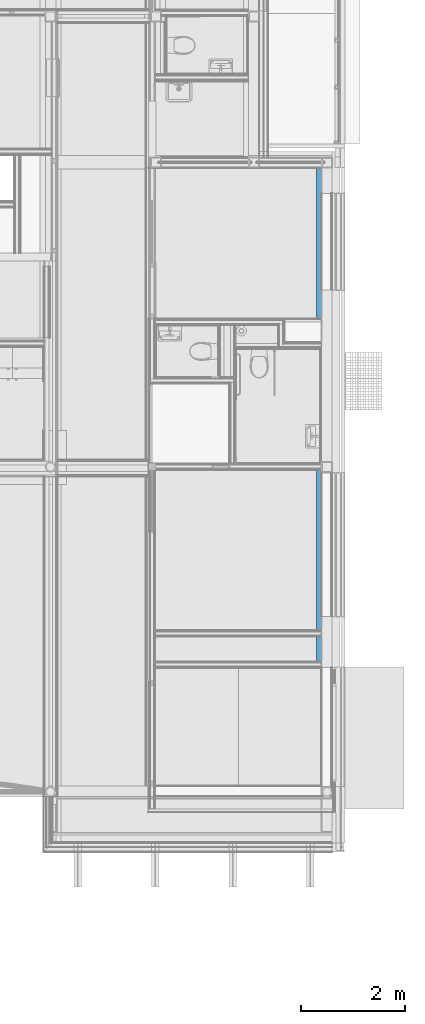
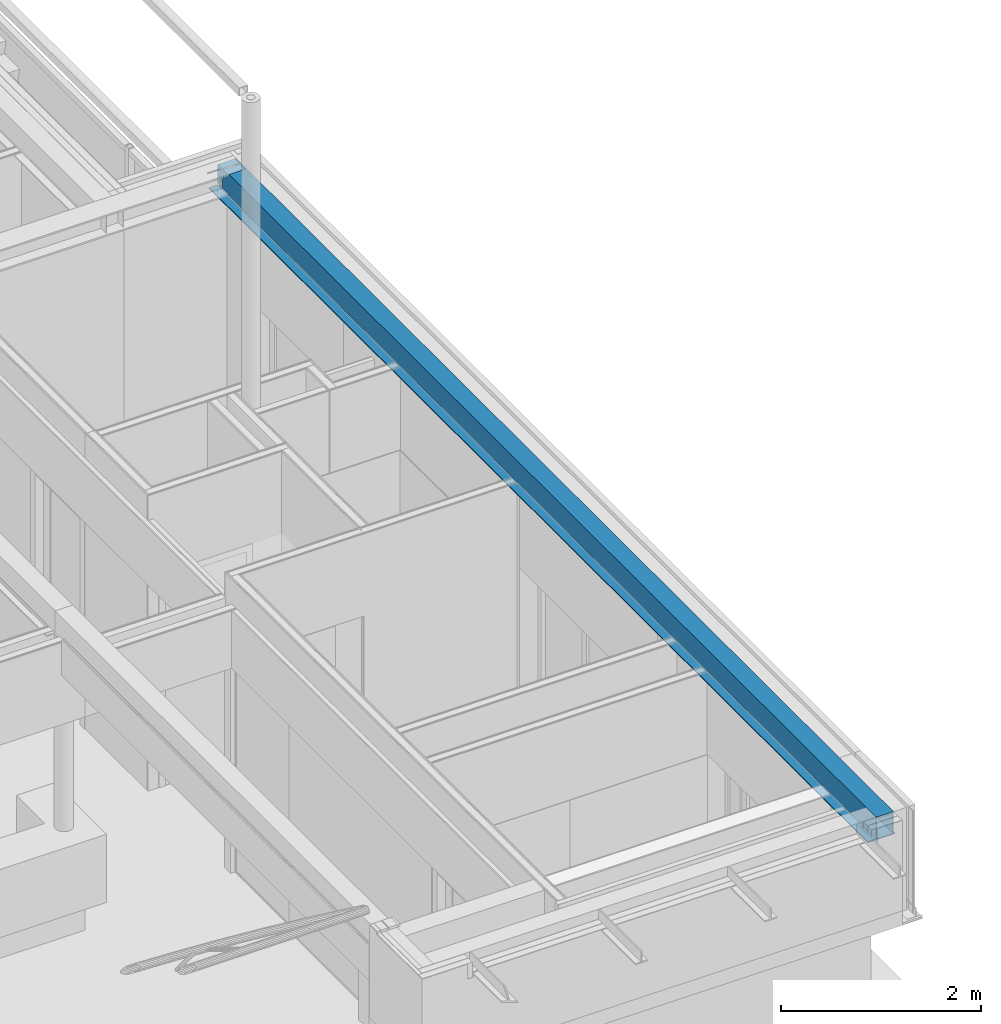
# One storey, part 11 of 165: 1 beam.
"""IFC2X3 building model written with IfcOpenShell, lengths in millimetres."""

from ifc_helpers import new_model, entity, si_unit, converted_unit, derived_unit, money_unit, direction, frame, origin_with_axes, place, context, subcontext, project, spatial, faceted_brep, material, type_object, element, save


model = new_model("IFC2X3")

# Units and contexts
model_context = context("Model", 3, precision=0.01, world=origin_with_axes(), true_north=direction((0.0, 1.0)))
body_context = subcontext(model_context, "Body", "Model", "MODEL_VIEW")
ifc_project = project(units=[si_unit("LENGTHUNIT", "METRE", prefix="MILLI"), si_unit("AREAUNIT", "SQUARE_METRE"), si_unit("VOLUMEUNIT", "CUBIC_METRE"), converted_unit("PLANEANGLEUNIT", "DEGREE", entity("IfcPlaneAngleMeasure", 0.0174532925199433), si_unit("PLANEANGLEUNIT", "RADIAN"), dimensions=[0, 0, 0, 0, 0, 0, 0]), money_unit("EUR"), converted_unit("TIMEUNIT", "Year", entity("IfcTimeMeasure", 31556926.0), si_unit("TIMEUNIT", "SECOND"), dimensions=[0, 0, 1, 0, 0, 0, 0]), si_unit("MASSUNIT", "GRAM", prefix="KILO"), si_unit("THERMODYNAMICTEMPERATUREUNIT", "DEGREE_CELSIUS"), si_unit("LUMINOUSINTENSITYUNIT", "LUMEN"), si_unit("ENERGYUNIT", "JOULE", prefix="MEGA"), derived_unit("THERMALCONDUCTANCEUNIT", [(si_unit("POWERUNIT", "WATT"), 1), (si_unit("LENGTHUNIT", "METRE"), -1), (si_unit("THERMODYNAMICTEMPERATUREUNIT", "KELVIN"), -1)]), derived_unit("SPECIFICHEATCAPACITYUNIT", [(si_unit("ENERGYUNIT", "JOULE"), 1), (si_unit("MASSUNIT", "GRAM", prefix="KILO"), -1), (si_unit("THERMODYNAMICTEMPERATUREUNIT", "KELVIN"), -1)]), derived_unit("MASSDENSITYUNIT", [(si_unit("MASSUNIT", "GRAM", prefix="KILO"), 1), (si_unit("VOLUMEUNIT", "CUBIC_METRE"), -1)])], contexts=[model_context])

# Site, building, storey
site_placement = place(None, origin_with_axes())
site = spatial("IfcSite", under=ifc_project, at=site_placement, Name="Site", CompositionType="ELEMENT")
building_placement = place(site_placement, origin_with_axes())
building = spatial("IfcBuilding", under=site, at=building_placement, Name="Naam gebouw", CompositionType="ELEMENT")
storey_placement = place(building_placement, origin_with_axes())
storey = spatial("IfcBuildingStorey", under=building, at=storey_placement, Name="Begane grond", CompositionType="ELEMENT", Elevation=0.0)

# Beam
ifc_material = material(Name="Metaal - Staal C")
beam_type = type_object("IfcBeamType", Name="28 THQ enkele flens 01 315 x 277", PredefinedType="BEAM")
beam_placement = place(storey_placement, frame((29800.0, 16749.99778166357, 3860.0), z_axis=(0.0, 0.0, 1.0), x_axis=(-1.0, 0.0, 0.0)))
element("IfcBeam", 1, at=beam_placement, inside=storey, type_object=beam_type, material=ifc_material, Name="h METAAL_Regenwaterafvoer-x", ObjectType="BEAM", context=body_context, shape_type="Brep", body=[
    faceted_brep([(-89.9999999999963, 190.0000000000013, -277.0000000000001), (90.00000000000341, 190.0000000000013, -277.0000000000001), (90.00000000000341, 10.00000000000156, -277.0000000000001), (-89.9999999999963, 10.00000000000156, -277.0000000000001), (-89.9999999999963, 190.0000000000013, -265.0000000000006), (90.00000000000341, 190.0000000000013, -265.0000000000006), (90.00000000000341, 10.00000000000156, -265.0000000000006), (-89.9999999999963, 10.00000000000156, -265.0000000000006)], [[[0, 1, 2, 3]], [[0, 4, 5, 1]], [[1, 5, 6, 2]], [[2, 6, 7, 3]], [[3, 7, 4, 0]], [[6, 5, 4, 7]]]),
    faceted_brep([(-89.9999999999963, 6029.997671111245, -277.0000000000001), (90.00000000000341, 6029.997671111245, -277.0000000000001), (90.00000000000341, 5849.997671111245, -277.0000000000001), (-89.9999999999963, 5849.997671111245, -277.0000000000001), (-89.9999999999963, 6029.997671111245, -265.0000000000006), (90.00000000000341, 6029.997671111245, -265.0000000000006), (90.00000000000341, 5849.997671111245, -265.0000000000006), (-89.9999999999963, 5849.997671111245, -265.0000000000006)], [[[0, 1, 2, 3]], [[0, 4, 5, 1]], [[1, 5, 6, 2]], [[2, 6, 7, 3]], [[3, 7, 4, 0]], [[6, 5, 4, 7]]]),
    faceted_brep([(-55.23750290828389, 12106.25030506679, -277.0000000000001), (-70.95973549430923, 12124.39472871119, -277.0000000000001), (-80.93323232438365, 12146.23364049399, -277.0000000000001), (-84.35000000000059, 12169.99778166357, -277.0000000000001), (-80.93323232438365, 12193.76192283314, -277.0000000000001), (-70.95973549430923, 12215.60083461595, -277.0000000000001), (-55.23750290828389, 12233.74525826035, -277.0000000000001), (-35.04025634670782, 12246.72524047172, -277.0000000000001), (-12.00425660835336, 12253.48922028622, -277.0000000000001), (12.00425660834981, 12253.48922028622, -277.0000000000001), (35.04025634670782, 12246.72524047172, -277.0000000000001), (55.23750290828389, 12233.74525826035, -277.0000000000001), (70.95973549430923, 12215.60083461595, -277.0000000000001), (80.93323232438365, 12193.76192283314, -277.0000000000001), (84.35000000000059, 12169.99778166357, -277.0000000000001), (80.93323232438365, 12146.23364049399, -277.0000000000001), (70.95973549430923, 12124.39472871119, -277.0000000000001), (55.23750290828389, 12106.25030506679, -277.0000000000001), (35.04025634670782, 12093.27032285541, -277.0000000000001), (12.00425660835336, 12086.50634304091, -277.0000000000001), (-12.00425660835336, 12086.50634304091, -277.0000000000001), (-35.04025634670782, 12093.27032285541, -277.0000000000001), (-55.23750290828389, 12106.25030506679, -265.0000000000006), (-70.95973549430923, 12124.39472871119, -265.0000000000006), (-80.93323232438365, 12146.23364049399, -265.0000000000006), (-84.35000000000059, 12169.99778166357, -265.0000000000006), (-80.93323232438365, 12193.76192283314, -265.0000000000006), (-70.95973549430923, 12215.60083461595, -265.0000000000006), (-55.23750290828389, 12233.74525826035, -265.0000000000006), (-35.04025634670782, 12246.72524047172, -265.0000000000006), (-12.00425660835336, 12253.48922028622, -265.0000000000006), (12.00425660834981, 12253.48922028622, -265.0000000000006), (35.04025634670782, 12246.72524047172, -265.0000000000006), (55.23750290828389, 12233.74525826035, -265.0000000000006), (70.95973549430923, 12215.60083461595, -265.0000000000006), (80.93323232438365, 12193.76192283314, -265.0000000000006), (84.35000000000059, 12169.99778166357, -265.0000000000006), (80.93323232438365, 12146.23364049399, -265.0000000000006), (70.95973549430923, 12124.39472871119, -265.0000000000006), (55.23750290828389, 12106.25030506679, -265.0000000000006), (35.04025634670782, 12093.27032285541, -265.0000000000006), (12.00425660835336, 12086.50634304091, -265.0000000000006), (-12.00425660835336, 12086.50634304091, -265.0000000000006), (-35.04025634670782, 12093.27032285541, -265.0000000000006)], [[[0, 1, 2, 3, 4, 5, 6, 7, 8, 9, 10, 11, 12, 13, 14, 15, 16, 17, 18, 19, 20, 21]], [[0, 22, 23, 1]], [[1, 23, 24, 2]], [[2, 24, 25, 3]], [[3, 25, 26, 4]], [[4, 26, 27, 5]], [[5, 27, 28, 6]], [[6, 28, 29, 7]], [[7, 29, 30, 8]], [[8, 30, 31, 9]], [[9, 31, 32, 10]], [[10, 32, 33, 11]], [[11, 33, 34, 12]], [[12, 34, 35, 13]], [[13, 35, 36, 14]], [[14, 36, 37, 15]], [[15, 37, 38, 16]], [[16, 38, 39, 17]], [[17, 39, 40, 18]], [[18, 40, 41, 19]], [[19, 41, 42, 20]], [[20, 42, 43, 21]], [[21, 43, 22, 0]], [[28, 27, 26, 25, 24, 23, 22, 43, 42, 41, 40, 39, 38, 37, 36, 35, 34, 33, 32, 31, 30, 29]]]),
    faceted_brep([(-94.99999999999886, 12157.13074903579, -260.0000000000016), (-94.99999999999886, 12182.86481429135, -260.0000000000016), (-95.00000000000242, 12182.86481429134, -265.0000000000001), (-95.00000000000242, 13149.99778166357, -265.0000000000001), (-95.00000000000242, 13149.99778166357, -20.00000000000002), (-94.99999999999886, 105.0000000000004, -20.00000000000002), (-94.99999999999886, 105.0000000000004, -242.5000000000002), (-94.99999999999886, 230.0000000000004, -242.5000000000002), (-94.99999999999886, 230.0000000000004, -260.0000000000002), (-94.99999999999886, 200.0000000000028, -260.0000000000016), (-94.99999999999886, 200.0000000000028, -265.0000000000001), (-94.99999999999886, 5839.997671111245, -265.0000000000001), (-94.99999999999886, 5839.997671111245, -260.0000000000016), (-94.99999999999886, 6039.997671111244, -260.0000000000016), (-94.99999999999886, 6039.997671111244, -265.0000000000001), (-95.00000000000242, 12157.1307490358, -265.0000000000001), (-96.84999999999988, 12169.99778166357, -260.0000000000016), (-96.84999999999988, 12169.99778166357, -277.0000000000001), (-92.92689449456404, 12197.28357979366, -277.0000000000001), (-92.92689449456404, 12197.28357979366, -265.0000000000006), (81.47540465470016, 12222.35884483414, -265.0000000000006), (92.92689449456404, 12197.28357979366, -265.0000000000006), (94.99999999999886, 12182.86481429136, -265.0000000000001), (94.99999999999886, 13149.99778166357, -265.0000000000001), (-81.47540465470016, 12222.35884483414, -265.0000000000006), (-63.42326208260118, 12243.19212793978, -265.0000000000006), (-40.23294400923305, 12258.09564041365, -265.0000000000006), (-13.78319208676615, 12265.86198830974, -265.0000000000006), (13.78319208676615, 12265.86198830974, -265.0000000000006), (40.23294400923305, 12258.09564041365, -265.0000000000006), (63.42326208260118, 12243.19212793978, -265.0000000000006), (100.9999999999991, 13149.99778166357, -265.0000000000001), (199.0000044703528, 13149.99778166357, -265.0000000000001), (199.0000044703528, 13149.99778166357, -277.0000000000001), (-116.0000000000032, 13149.99778166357, -277.0000000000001), (-116.0000000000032, 13149.99778166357, -265.0000000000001), (-101.0000000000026, 13149.99778166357, -265.0000000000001), (-101.0000000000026, 13149.99778166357, 0.0), (100.9999999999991, 13149.99778166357, 0.0), (94.99999999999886, 13149.99778166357, -20.00000000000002), (94.99999999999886, 105.0000000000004, -20.00000000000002), (-99.99999999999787, 105.0000000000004, -17.50000000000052), (-99.99999999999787, 105.0000000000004, -242.5000000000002), (95.00000000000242, 105.0000000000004, -40.74542920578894), (101.0000000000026, 105.0000000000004, -33.32335128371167), (100.9999999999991, 105.0000000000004, -17.50000000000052), (-99.99999999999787, 230.0000000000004, -242.5000000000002), (-99.99999999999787, 230.0000000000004, -260.0000000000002), (-99.99999999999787, 200.0000000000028, -260.0000000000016), (-99.99999999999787, 200.0000000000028, -277.0000000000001), (100.000000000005, 200.0000000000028, -277.0000000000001), (100.000000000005, 200.0000000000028, -260.0000000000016), (94.99999999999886, 200.0000000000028, -260.0000000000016), (94.99999999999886, 200.0000000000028, -265.0000000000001), (94.99999999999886, 5839.997671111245, -265.0000000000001), (100.000000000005, 5839.997671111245, -260.0000000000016), (100.000000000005, 5839.997671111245, -277.0000000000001), (-99.99999999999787, 5839.997671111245, -277.0000000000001), (-99.99999999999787, 5839.997671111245, -260.0000000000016), (95.00000000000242, 5839.997671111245, -260.0000000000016), (-99.99999999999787, 6039.997671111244, -260.0000000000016), (-99.99999999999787, 6039.997671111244, -277.0000000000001), (100.000000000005, 6039.997671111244, -277.0000000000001), (100.000000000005, 6039.997671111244, -260.0000000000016), (95.00000000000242, 6039.997671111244, -260.0000000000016), (94.99999999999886, 6039.997671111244, -265.0000000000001), (-81.47540465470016, 12117.63671849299, -265.0000000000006), (-92.92689449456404, 12142.71198353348, -265.0000000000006), (94.99999999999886, 12157.13074903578, -265.0000000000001), (92.92689449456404, 12142.71198353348, -265.0000000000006), (81.47540465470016, 12117.63671849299, -265.0000000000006), (63.42326208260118, 12096.80343538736, -265.0000000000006), (40.23294400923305, 12081.89992291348, -265.0000000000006), (13.78319208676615, 12074.1335750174, -265.0000000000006), (-13.78319208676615, 12074.1335750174, -265.0000000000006), (-40.23294400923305, 12081.89992291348, -265.0000000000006), (-63.42326208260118, 12096.80343538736, -265.0000000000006), (-92.92689449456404, 12142.71198353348, -277.0000000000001), (-99.99999999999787, 0.0, -277.0000000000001), (-115.9999999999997, 0.0, -277.0000000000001), (199.0000044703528, 0.0, -277.0000000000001), (100.000000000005, 0.0, -277.0000000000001), (161.9607674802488, 100.0000000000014, -277.0000000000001), (109.5249998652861, 100.0000000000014, -277.0000000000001), (109.5249998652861, 85.00000000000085, -277.0000000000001), (161.9607674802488, 85.00000000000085, -277.0000000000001), (-63.42326208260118, 12243.19212793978, -277.0000000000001), (-81.47540465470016, 12222.35884483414, -277.0000000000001), (-81.47540465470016, 12117.63671849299, -277.0000000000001), (-63.42326208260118, 12096.80343538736, -277.0000000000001), (-40.23294400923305, 12081.89992291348, -277.0000000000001), (-13.78319208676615, 12074.1335750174, -277.0000000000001), (13.78319208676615, 12074.1335750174, -277.0000000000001), (40.23294400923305, 12081.89992291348, -277.0000000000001), (63.42326208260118, 12096.80343538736, -277.0000000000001), (81.47540465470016, 12117.63671849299, -277.0000000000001), (92.92689449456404, 12142.71198353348, -277.0000000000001), (96.84999999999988, 12169.99778166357, -277.0000000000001), (92.92689449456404, 12197.28357979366, -277.0000000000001), (81.47540465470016, 12222.35884483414, -277.0000000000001), (63.42326208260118, 12243.19212793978, -277.0000000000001), (40.23294400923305, 12258.09564041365, -277.0000000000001), (13.78319208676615, 12265.86198830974, -277.0000000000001), (-13.78319208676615, 12265.86198830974, -277.0000000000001), (-40.23294400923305, 12258.09564041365, -277.0000000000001), (95.00000000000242, 12182.86481429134, -260.0000000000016), (96.84999999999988, 12169.99778166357, -260.0000000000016), (95.00000000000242, 12157.13074903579, -260.0000000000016), (94.99999999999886, 230.0000000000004, -260.0000000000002), (94.99999999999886, 230.0000000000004, -242.5000000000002), (94.99999999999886, 105.0000000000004, -242.5000000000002), (94.99999999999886, 105.0000000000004, -125.9580052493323), (94.99999999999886, 115.000000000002, -125.9580052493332), (94.99999999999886, 115.000000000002, -40.74542920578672), (100.9999999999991, 0.0, -265.0000000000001), (199.0000044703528, 0.0, -265.0000000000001), (158.1812398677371, 100.0000000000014, -265.0000000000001), (158.1812398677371, 85.00000000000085, -265.0000000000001), (147.6249993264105, 85.00000000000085, -265.0000000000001), (147.6249993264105, 100.0000000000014, -265.0000000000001), (-115.9999999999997, 0.0, -265.0000000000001), (-100.9999999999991, 0.0, -265.0000000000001), (-100.9999999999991, 0.0, 0.0), (-99.99999999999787, 0.0, 0.0), (-99.99999999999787, 230.0000000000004, 0.0), (100.9999999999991, 230.0000000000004, 0.0), (100.9999999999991, 230.0000000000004, -17.50000000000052), (100.9999999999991, 115.000000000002, -33.32335128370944), (100.9999999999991, 115.000000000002, -130.8083989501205), (100.9999999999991, 105.0000000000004, -130.8083989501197), (100.9999999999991, 105.0000000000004, -242.5000000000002), (100.9999999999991, 230.0000000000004, -242.5000000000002), (100.9999999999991, 230.0000000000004, -260.0000000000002), (100.9999999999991, 0.0, -260.0000000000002), (-99.99999999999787, 0.0, -242.5000000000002), (-99.99999999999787, 0.0, -260.0000000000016), (-99.99999999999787, 230.0000000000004, -17.50000000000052), (-99.99999999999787, 0.0, -17.50000000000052), (-99.99999999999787, 95.00000000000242, -17.50000000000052), (-99.99999999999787, 95.00000000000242, -242.5000000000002), (100.000000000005, 0.0, -260.0000000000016), (-94.99999999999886, 0.0, -242.5000000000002), (-94.99999999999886, 0.0, -20.00000000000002), (94.99999999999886, 0.0, -20.00000000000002), (94.99999999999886, 0.0, -242.5000000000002), (100.9999999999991, 0.0, -242.5000000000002), (100.9999999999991, 0.0, -17.50000000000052), (100.9999999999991, 95.00000000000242, -17.50000000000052), (100.9999999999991, 95.00000000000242, -242.5000000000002), (94.99999999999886, 95.00000000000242, -242.5000000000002), (94.99999999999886, 95.00000000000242, -20.00000000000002), (-94.99999999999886, 95.00000000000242, -20.00000000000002), (-94.99999999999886, 95.00000000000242, -242.5000000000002)], [[[0, 1, 2, 3, 4, 5, 6, 7, 8, 9, 10, 11, 12, 13, 14, 15]], [[16, 1, 0]], [[16, 17, 18, 19, 2, 1]], [[20, 21, 22, 23, 3, 2, 19, 24, 25, 26, 27, 28, 29, 30]], [[31, 32, 33, 34, 35, 36, 37, 38], [23, 39, 4, 3]], [[4, 39, 40, 5]], [[41, 42, 6, 5, 40, 43, 44, 45]], [[42, 46, 7, 6]], [[46, 47, 8, 7]], [[47, 48, 9, 8]], [[10, 9, 48, 49, 50, 51, 52, 53]], [[53, 54, 11, 10]], [[55, 56, 57, 58, 12, 11, 54, 59]], [[60, 13, 12, 58]], [[60, 61, 62, 63, 64, 65, 14, 13]], [[66, 67, 15, 14, 65, 68, 69, 70, 71, 72, 73, 74, 75, 76]], [[67, 77, 17, 16, 0, 15]], [[50, 49, 78, 79, 34, 33, 80, 81], [82, 83, 84, 85], [56, 62, 61, 57], [86, 87, 18, 17, 77, 88, 89, 90, 91, 92, 93, 94, 95, 96, 97, 98, 99, 100, 101, 102, 103, 104]], [[87, 24, 19, 18]], [[98, 21, 20, 99]], [[105, 22, 21, 98, 97, 106]], [[105, 107, 68, 65, 64, 59, 54, 53, 52, 108, 109, 110, 111, 112, 113, 43, 40, 39, 23, 22]], [[86, 25, 24, 87]], [[104, 26, 25, 86]], [[103, 27, 26, 104]], [[102, 28, 27, 103]], [[101, 29, 28, 102]], [[100, 30, 29, 101]], [[99, 20, 30, 100]], [[114, 115, 32, 31], [116, 117, 118, 119]], [[115, 80, 33, 32]], [[79, 120, 35, 34]], [[120, 121, 36, 35]], [[121, 122, 37, 36]], [[122, 123, 124, 125, 38, 37]], [[125, 126, 45, 44, 127, 128, 129, 130, 131, 132, 133, 114, 31, 38]], [[134, 135, 78, 49, 48, 47, 46, 42, 41, 136, 124, 123, 137, 138, 139]], [[113, 127, 44, 43]], [[136, 41, 45, 126]], [[50, 81, 140, 51]], [[52, 51, 140, 133, 132, 108]], [[63, 62, 56, 55]], [[58, 57, 61, 60]], [[55, 59, 64, 63]], [[77, 67, 66, 88]], [[96, 69, 68, 107, 106, 97]], [[95, 70, 69, 96]], [[94, 71, 70, 95]], [[93, 72, 71, 94]], [[92, 73, 72, 93]], [[91, 74, 73, 92]], [[90, 75, 74, 91]], [[89, 76, 75, 90]], [[88, 66, 76, 89]], [[79, 78, 135, 134, 141, 142, 143, 144, 145, 146, 137, 123, 122, 121, 120]], [[133, 140, 81, 80, 115, 114]], [[83, 82, 116, 119]], [[84, 83, 119, 118]], [[85, 84, 118, 117]], [[117, 116, 82, 85]], [[106, 107, 105]], [[132, 131, 109, 108]], [[131, 130, 110, 109]], [[110, 130, 129, 111]], [[128, 112, 111, 129]], [[127, 113, 112, 128]], [[136, 126, 125, 124]], [[147, 138, 137, 146]], [[148, 149, 150, 151, 152, 139, 138, 147]], [[139, 152, 141, 134]], [[142, 141, 152, 151]], [[143, 142, 151, 150]], [[143, 150, 149, 144]], [[149, 148, 145, 144]], [[145, 148, 147, 146]]]),
])

save(model, "model.ifc")
